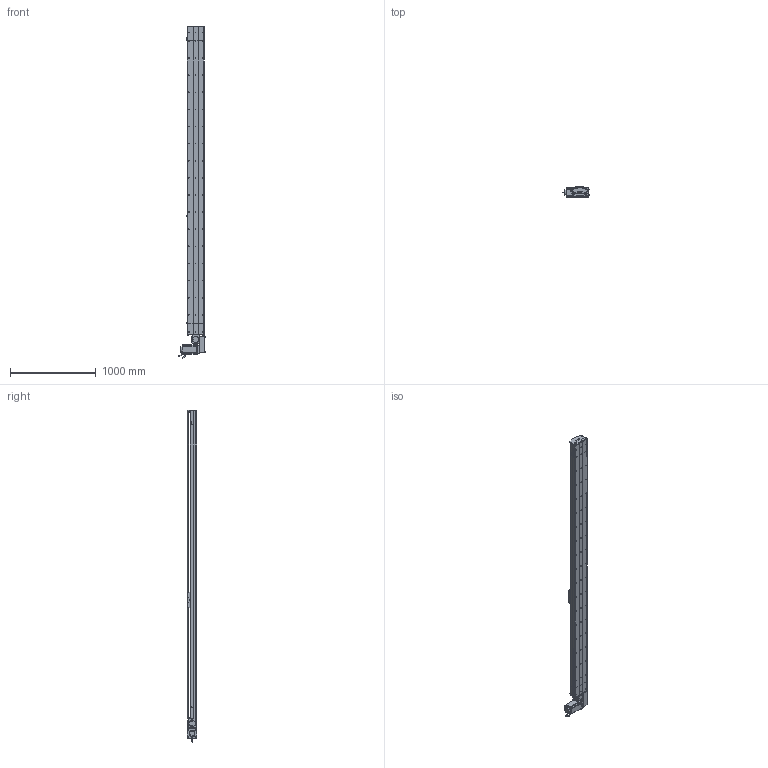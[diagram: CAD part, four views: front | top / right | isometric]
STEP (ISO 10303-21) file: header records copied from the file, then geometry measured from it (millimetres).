
FILE_DESCRIPTION (( 'STEP AP214' ), '1' );
FILE_NAME ('D20 TBH LH S3300.STEP', '2010-07-01T08:56:40', ( 'Conseil Régional Haute-Normandie' ), ( 'Conseil Régional Haute-Normandie' ), 'SwSTEP 2.0', 'SolidWorks 2010', '' );
FILE_SCHEMA (( 'AUTOMOTIVE_DESIGN' ));
Length unit declared in the file: millimetre
Products named in the file (40): avant 110BLDC170A-630x; vis M5 L5_Default; couroie_Default; cache D20_Default; Moteur motionking 110BLDC170A-640x; vis M5 L70_Default; corpl head D20_Default; couvercle head D20_Default; poulie head D20_Default; cache arbre D20_Default; plaque de  bout head D20B LH_Default; rail head D20; Plaque racord D20LH_Default; Renvoi LH D20_Default; Couroie tail D20_Default; codeur 110BLDC170A-630x; plaque de  bout tail D20_Default; poulie tail D20_Default; rail tail D20; vis M5 L8 90°_Default; vis M5 L25_Default; vis M5 L12_Default; tete d''axe poulie D20B; Conecteur2_Default; clavette; couvercle tail D20_Default; Conecteur_Default; corps 110BLDC170A-630x; corpl tail D20 +100_Default; tail D20+100_Default; vis M8 L12_Default; Chariot D20B; head LH_Default; guide D20B; chariot D20B_Default; rail + couroie  D20 S3300; D20 TBH LH S3300; couvercle D20 S3300_Default; corp D20 S3300_Default; Course B L3300_Default
Assembly tree (71 placements, depth 4):
  D20 TBH LH S3300
    head LH_Default
      vis M8 L12_Default  x4
      vis M5 L12_Default  x10
      Renvoi LH D20_Default
      vis M5 L70_Default  x4
      couvercle head D20_Default
      cache D20_Default  x2
      vis M5 L5_Default  x4
      couroie_Default
      rail head D20
      Plaque racord D20LH_Default
      plaque de  bout head D20B LH_Default
      vis M5 L25_Default  x2
      Moteur motionking 110BLDC170A-640x
        Conecteur2_Default
        corps 110BLDC170A-630x
        codeur 110BLDC170A-630x
        clavette
        Conecteur_Default
        avant 110BLDC170A-630x
      poulie head D20_Default
      corpl head D20_Default
      cache arbre D20_Default
    tail D20+100_Default
      couvercle tail D20_Default
      rail tail D20
      corpl tail D20 +100_Default
      vis M5 L8 90°_Default  x2
      plaque de  bout tail D20_Default
      vis M5 L25_Default  x2
      tete d''axe poulie D20B
      vis M5 L12_Default  x4
      Couroie tail D20_Default
      poulie tail D20_Default
    chariot D20B_Default
      guide D20B  x2
      vis M5 L12_Default  x4
      Chariot D20B
    Course B L3300_Default
      rail + couroie  D20 S3300
      corp D20 S3300_Default
      couvercle D20 S3300_Default
Bounding box: 304.2 x 115.7 x 3880 mm (x, y, z)
Volume: 29156440 mm3; surface area: 7223183 mm2
Topology: 95 solids, 95 shells, 2898 faces, 7488 edges, 4843 vertices
Faces by surface type: plane 1653, cylinder 921, bspline 136, cone 99, torus 89
Entity records: 94619 total; most frequent: CARTESIAN_POINT 30939, ORIENTED_EDGE 11632, DIRECTION 10891, EDGE_CURVE 5816, VERTEX_POINT 3829, LINE 3657, VECTOR 3657, AXIS2_PLACEMENT_3D 3617
